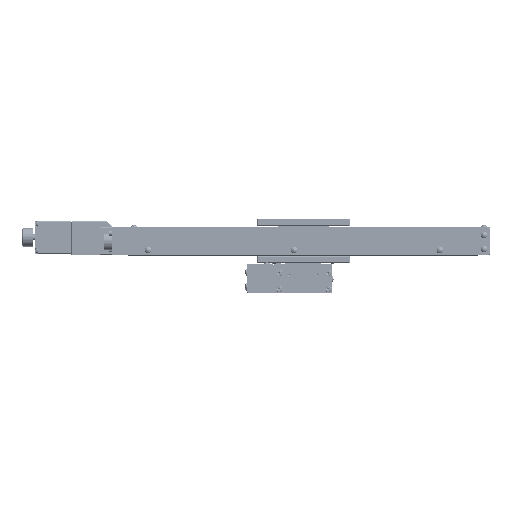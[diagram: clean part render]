
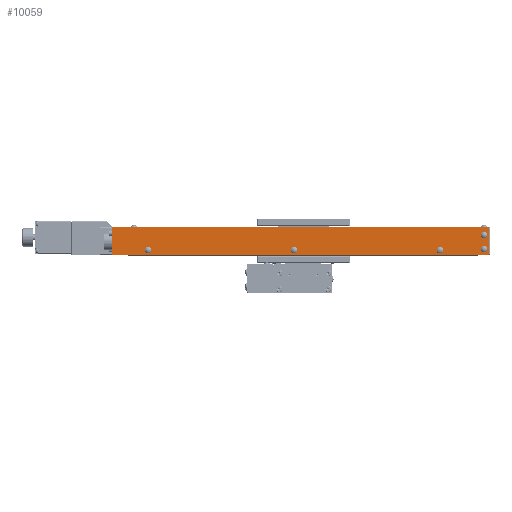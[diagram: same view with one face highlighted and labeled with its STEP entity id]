
A CAD part, front view. The second image highlights one B-rep face of the part: STEP entity #10059.
In plain terms, the highlighted planar face has unit normal (0, -1, 0).
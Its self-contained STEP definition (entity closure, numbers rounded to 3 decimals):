
#10059=ADVANCED_FACE('',(#60721,#60722,#60723,#60724,#60725,#60726),#60720,.T.);
#60720=PLANE('',#103217);
#60721=FACE_OUTER_BOUND('',#103218,.T.);
#60722=FACE_BOUND('',#103219,.T.);
#60723=FACE_BOUND('',#103220,.T.);
#60724=FACE_BOUND('',#103221,.T.);
#60725=FACE_BOUND('',#103222,.T.);
#60726=FACE_BOUND('',#103223,.T.);
#103214=CARTESIAN_POINT('',(-324.,-48.5,-1.95));
#103215=DIRECTION('',(0.,-1.,0.));
#103216=DIRECTION('',(1.,0.,0.));
#103217=AXIS2_PLACEMENT_3D('',#103214,#103215,#103216);
#103218=EDGE_LOOP('',(#130145,#130146,#130147,#130148,#130149,#130150));
#103219=EDGE_LOOP('',(#130151,#130152));
#103220=EDGE_LOOP('',(#130153,#130154));
#103221=EDGE_LOOP('',(#130155,#130156));
#103222=EDGE_LOOP('',(#130157,#130158));
#103223=EDGE_LOOP('',(#130159,#130160));
#130145=ORIENTED_EDGE('',*,*,#145248,.F.);
#130146=ORIENTED_EDGE('',*,*,#145246,.T.);
#130147=ORIENTED_EDGE('',*,*,#145249,.F.);
#130148=ORIENTED_EDGE('',*,*,#145250,.T.);
#130149=ORIENTED_EDGE('',*,*,#145251,.T.);
#130150=ORIENTED_EDGE('',*,*,#145252,.T.);
#130151=ORIENTED_EDGE('',*,*,#145253,.T.);
#130152=ORIENTED_EDGE('',*,*,#145254,.T.);
#130153=ORIENTED_EDGE('',*,*,#145255,.T.);
#130154=ORIENTED_EDGE('',*,*,#145256,.T.);
#130155=ORIENTED_EDGE('',*,*,#145257,.T.);
#130156=ORIENTED_EDGE('',*,*,#145258,.T.);
#130157=ORIENTED_EDGE('',*,*,#145259,.T.);
#130158=ORIENTED_EDGE('',*,*,#145260,.T.);
#130159=ORIENTED_EDGE('',*,*,#145261,.T.);
#130160=ORIENTED_EDGE('',*,*,#145262,.T.);
#145246=EDGE_CURVE('',#221270,#221263,#221271,.T.);
#145248=EDGE_CURVE('',#221270,#221283,#221284,.T.);
#145249=EDGE_CURVE('',#221290,#221263,#221291,.T.);
#145250=EDGE_CURVE('',#221290,#221297,#221298,.T.);
#145251=EDGE_CURVE('',#221297,#221304,#221305,.T.);
#145252=EDGE_CURVE('',#221304,#221283,#221311,.T.);
#145253=EDGE_CURVE('',#221317,#221318,#221319,.T.);
#145254=EDGE_CURVE('',#221318,#221317,#221325,.T.);
#145255=EDGE_CURVE('',#221331,#221332,#221333,.T.);
#145256=EDGE_CURVE('',#221332,#221331,#221339,.T.);
#145257=EDGE_CURVE('',#221345,#221346,#221347,.T.);
#145258=EDGE_CURVE('',#221346,#221345,#221353,.T.);
#145259=EDGE_CURVE('',#221359,#221360,#221361,.T.);
#145260=EDGE_CURVE('',#221360,#221359,#221367,.T.);
#145261=EDGE_CURVE('',#221373,#221374,#221375,.T.);
#145262=EDGE_CURVE('',#221374,#221373,#221381,.T.);
#221263=VERTEX_POINT('',#281506);
#221270=VERTEX_POINT('',#281510);
#221271=CIRCLE('',#281514,1.);
#221283=VERTEX_POINT('',#281518);
#221284=LINE('',#281519,#281520);
#221290=VERTEX_POINT('',#281522);
#221291=LINE('',#281523,#281524);
#221297=VERTEX_POINT('',#281526);
#221298=CIRCLE('',#281530,1.);
#221304=VERTEX_POINT('',#281531);
#221305=LINE('',#281532,#281533);
#221311=LINE('',#281535,#281536);
#221317=VERTEX_POINT('',#281538);
#221318=VERTEX_POINT('',#281539);
#221319=CIRCLE('',#281543,1.5);
#221325=CIRCLE('',#281547,1.5);
#221331=VERTEX_POINT('',#281548);
#221332=VERTEX_POINT('',#281549);
#221333=CIRCLE('',#281553,1.5);
#221339=CIRCLE('',#281557,1.5);
#221345=VERTEX_POINT('',#281558);
#221346=VERTEX_POINT('',#281559);
#221347=CIRCLE('',#281563,1.5);
#221353=CIRCLE('',#281567,1.5);
#221359=VERTEX_POINT('',#281568);
#221360=VERTEX_POINT('',#281569);
#221361=CIRCLE('',#281573,1.5);
#221367=CIRCLE('',#281577,1.5);
#221373=VERTEX_POINT('',#281578);
#221374=VERTEX_POINT('',#281579);
#221375=CIRCLE('',#281583,1.5);
#221381=CIRCLE('',#281587,1.5);
#281506=CARTESIAN_POINT('',(-313.,-48.5,0.5));
#281510=CARTESIAN_POINT('',(-314.,-48.5,1.5));
#281511=CARTESIAN_POINT('',(-313.,-48.5,1.5));
#281512=DIRECTION('',(0.,-1.,0.));
#281513=DIRECTION('',(1.,0.,0.));
#281514=AXIS2_PLACEMENT_3D('',#281511,#281512,#281513);
#281518=CARTESIAN_POINT('',(-314.,-48.5,25.));
#281519=CARTESIAN_POINT('',(-314.,-48.5,1.5));
#281520=VECTOR('',#281521,23.5);
#281521=DIRECTION('',(0.,0.,1.));
#281522=CARTESIAN_POINT('',(8.5,-48.5,0.5));
#281523=CARTESIAN_POINT('',(8.5,-48.5,0.5));
#281524=VECTOR('',#281525,321.5);
#281525=DIRECTION('',(-1.,0.,0.));
#281526=CARTESIAN_POINT('',(9.5,-48.5,1.5));
#281527=CARTESIAN_POINT('',(8.5,-48.5,1.5));
#281528=DIRECTION('',(0.,-1.,0.));
#281529=DIRECTION('',(0.,0.,1.));
#281530=AXIS2_PLACEMENT_3D('',#281527,#281528,#281529);
#281531=CARTESIAN_POINT('',(9.5,-48.5,25.));
#281532=CARTESIAN_POINT('',(9.5,-48.5,1.5));
#281533=VECTOR('',#281534,23.5);
#281534=DIRECTION('',(0.,0.,1.));
#281535=CARTESIAN_POINT('',(9.5,-48.5,25.));
#281536=VECTOR('',#281537,323.5);
#281537=DIRECTION('',(-1.,0.,0.));
#281538=CARTESIAN_POINT('',(-158.,-48.5,6.5));
#281539=CARTESIAN_POINT('',(-158.,-48.5,3.5));
#281540=CARTESIAN_POINT('',(-158.,-48.5,5.));
#281541=DIRECTION('',(0.,1.,0.));
#281542=DIRECTION('',(0.,0.,1.));
#281543=AXIS2_PLACEMENT_3D('',#281540,#281541,#281542);
#281544=CARTESIAN_POINT('',(-158.,-48.5,5.));
#281545=DIRECTION('',(0.,1.,0.));
#281546=DIRECTION('',(0.,0.,-1.));
#281547=AXIS2_PLACEMENT_3D('',#281544,#281545,#281546);
#281548=CARTESIAN_POINT('',(3.5,-48.5,18.));
#281549=CARTESIAN_POINT('',(6.5,-48.5,18.));
#281550=CARTESIAN_POINT('',(5.,-48.5,18.));
#281551=DIRECTION('',(0.,1.,0.));
#281552=DIRECTION('',(-1.,0.,0.));
#281553=AXIS2_PLACEMENT_3D('',#281550,#281551,#281552);
#281554=CARTESIAN_POINT('',(5.,-48.5,18.));
#281555=DIRECTION('',(0.,1.,0.));
#281556=DIRECTION('',(-1.,0.,0.));
#281557=AXIS2_PLACEMENT_3D('',#281554,#281555,#281556);
#281558=CARTESIAN_POINT('',(-283.,-48.5,6.5));
#281559=CARTESIAN_POINT('',(-283.,-48.5,3.5));
#281560=CARTESIAN_POINT('',(-283.,-48.5,5.));
#281561=DIRECTION('',(0.,1.,0.));
#281562=DIRECTION('',(0.,0.,1.));
#281563=AXIS2_PLACEMENT_3D('',#281560,#281561,#281562);
#281564=CARTESIAN_POINT('',(-283.,-48.5,5.));
#281565=DIRECTION('',(0.,1.,0.));
#281566=DIRECTION('',(0.,0.,-1.));
#281567=AXIS2_PLACEMENT_3D('',#281564,#281565,#281566);
#281568=CARTESIAN_POINT('',(-33.,-48.5,6.5));
#281569=CARTESIAN_POINT('',(-33.,-48.5,3.5));
#281570=CARTESIAN_POINT('',(-33.,-48.5,5.));
#281571=DIRECTION('',(0.,1.,0.));
#281572=DIRECTION('',(0.,0.,1.));
#281573=AXIS2_PLACEMENT_3D('',#281570,#281571,#281572);
#281574=CARTESIAN_POINT('',(-33.,-48.5,5.));
#281575=DIRECTION('',(0.,1.,0.));
#281576=DIRECTION('',(0.,0.,-1.));
#281577=AXIS2_PLACEMENT_3D('',#281574,#281575,#281576);
#281578=CARTESIAN_POINT('',(5.,-48.5,7.5));
#281579=CARTESIAN_POINT('',(5.,-48.5,4.5));
#281580=CARTESIAN_POINT('',(5.,-48.5,6.));
#281581=DIRECTION('',(0.,1.,0.));
#281582=DIRECTION('',(0.,0.,1.));
#281583=AXIS2_PLACEMENT_3D('',#281580,#281581,#281582);
#281584=CARTESIAN_POINT('',(5.,-48.5,6.));
#281585=DIRECTION('',(0.,1.,0.));
#281586=DIRECTION('',(0.,0.,1.));
#281587=AXIS2_PLACEMENT_3D('',#281584,#281585,#281586);
